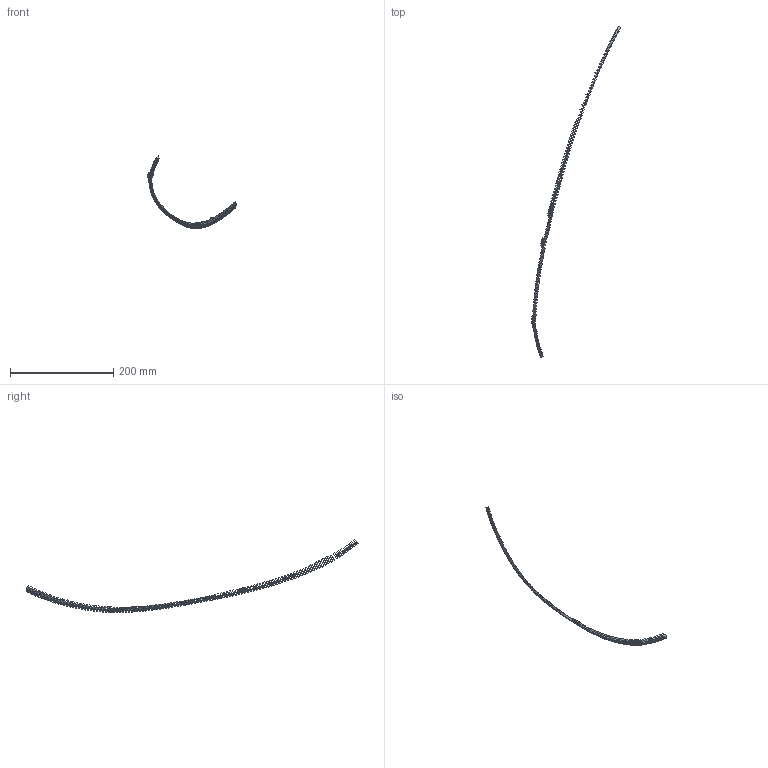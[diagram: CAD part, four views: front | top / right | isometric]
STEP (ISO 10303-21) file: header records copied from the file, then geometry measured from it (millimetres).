
FILE_DESCRIPTION(('FreeCAD Model'),'2;1');
FILE_NAME('Open CASCADE Shape Model','2022-05-22T07:50:31',('FreeCAD'),( 'FreeCAD'),'Open CASCADE STEP processor 7.5','FreeCAD','Unknown');
FILE_SCHEMA(('AUTOMOTIVE_DESIGN { 1 0 10303 214 1 1 1 1 }'));
Length unit declared in the file: millimetre
Products named in the file (224): Open CASCADE STEP translator 7.5 4; Open CASCADE STEP translator 7.5 4.1; Open CASCADE STEP translator 7.5 4.2; Open CASCADE STEP translator 7.5 4.3; Open CASCADE STEP translator 7.5 4.4; Open CASCADE STEP translator 7.5 4.5; Open CASCADE STEP translator 7.5 4.6; Open CASCADE STEP translator 7.5 4.7; Open CASCADE STEP translator 7.5 4.8; Open CASCADE STEP translator 7.5 4.9; Open CASCADE STEP translator 7.5 4.10; Open CASCADE STEP translator 7.5 4.11; Open CASCADE STEP translator 7.5 4.12; Open CASCADE STEP translator 7.5 4.13; Open CASCADE STEP translator 7.5 4.14; Open CASCADE STEP translator 7.5 4.15; Open CASCADE STEP translator 7.5 4.16; Open CASCADE STEP translator 7.5 4.17; Open CASCADE STEP translator 7.5 4.18; Open CASCADE STEP translator 7.5 4.19; Open CASCADE STEP translator 7.5 4.20; Open CASCADE STEP translator 7.5 4.21; Open CASCADE STEP translator 7.5 4.22; Open CASCADE STEP translator 7.5 4.23; Open CASCADE STEP translator 7.5 4.24; Open CASCADE STEP translator 7.5 4.25; Open CASCADE STEP translator 7.5 4.26; Open CASCADE STEP translator 7.5 4.27; Open CASCADE STEP translator 7.5 4.28; Open CASCADE STEP translator 7.5 4.29; Open CASCADE STEP translator 7.5 4.30; Open CASCADE STEP translator 7.5 4.31; Open CASCADE STEP translator 7.5 4.32; Open CASCADE STEP translator 7.5 4.33; Open CASCADE STEP translator 7.5 4.34; Open CASCADE STEP translator 7.5 4.35; Open CASCADE STEP translator 7.5 4.36; Open CASCADE STEP translator 7.5 4.37; Open CASCADE STEP translator 7.5 4.38; Open CASCADE STEP translator 7.5 4.39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
Assembly tree (223 placements, depth 2):
  Open CASCADE STEP translator 7.5 4
    Open CASCADE STEP translator 7.5 4.1
    Open CASCADE STEP translator 7.5 4.2
    Open CASCADE STEP translator 7.5 4.3
    Open CASCADE STEP translator 7.5 4.4
    Open CASCADE STEP translator 7.5 4.5
    Open CASCADE STEP translator 7.5 4.6
    Open CASCADE STEP translator 7.5 4.7
    Open CASCADE STEP translator 7.5 4.8
    Open CASCADE STEP translator 7.5 4.9
    Open CASCADE STEP translator 7.5 4.10
    Open CASCADE STEP translator 7.5 4.11
    Open CASCADE STEP translator 7.5 4.12
    Open CASCADE STEP translator 7.5 4.13
    Open CASCADE STEP translator 7.5 4.14
    Open CASCADE STEP translator 7.5 4.15
    Open CASCADE STEP translator 7.5 4.16
    Open CASCADE STEP translator 7.5 4.17
    Open CASCADE STEP translator 7.5 4.18
    Open CASCADE STEP translator 7.5 4.19
    Open CASCADE STEP translator 7.5 4.20
    Open CASCADE STEP translator 7.5 4.21
    Open CASCADE STEP translator 7.5 4.22
    Open CASCADE STEP translator 7.5 4.23
    Open CASCADE STEP translator 7.5 4.24
    Open CASCADE STEP translator 7.5 4.25
    Open CASCADE STEP translator 7.5 4.26
    Open CASCADE STEP translator 7.5 4.27
    Open CASCADE STEP translator 7.5 4.28
    Open CASCADE STEP translator 7.5 4.29
    Open CASCADE STEP translator 7.5 4.30
    Open CASCADE STEP translator 7.5 4.31
    Open CASCADE STEP translator 7.5 4.32
    Open CASCADE STEP translator 7.5 4.33
    Open CASCADE STEP translator 7.5 4.34
    Open CASCADE STEP translator 7.5 4.35
    Open CASCADE STEP translator 7.5 4.36
    Open CASCADE STEP translator 7.5 4.37
    Open CASCADE STEP translator 7.5 4.38
    Open CASCADE STEP translator 7.5 4.39
    Open CASCADE STEP translator 7.5 4.40
    Open CASCADE STEP translator 7.5 4.41
    Open CASCADE STEP translator 7.5 4.42
    Open CASCADE STEP translator 7.5 4.43
    Open CASCADE STEP translator 7.5 4.44
    Open CASCADE STEP translator 7.5 4.45
    Open CASCADE STEP translator 7.5 4.46
    Open CASCADE STEP translator 7.5 4.47
    Open CASCADE STEP translator 7.5 4.48
    Open CASCADE STEP translator 7.5 4.49
    Open CASCADE STEP translator 7.5 4.50
    Open CASCADE STEP translator 7.5 4.51
    Open CASCADE STEP translator 7.5 4.52
    Open CASCADE STEP translator 7.5 4.53
    Open CASCADE STEP translator 7.5 4.54
    Open CASCADE STEP translator 7.5 4.55
    Open CASCADE STEP translator 7.5 4.56
    Open CASCADE STEP translator 7.5 4.57
    Open CASCADE STEP translator 7.5 4.58
    Open CASCADE STEP translator 7.5 4.59
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Bounding box: 172.07 x 642.4 x 141.48 mm (x, y, z)
Surface area: 7732.2 mm2 (no closed solid volume)
Topology: 0 solids, 223 shells, 223 faces, 9373 edges, 9373 vertices
Faces by surface type: bspline 223
Entity records: 128109 total; most frequent: CARTESIAN_POINT 47981, B_SPLINE_CURVE_WITH_KNOTS 18746, ORIENTED_EDGE 9373, EDGE_CURVE 9373, VERTEX_POINT 9373, SURFACE_CURVE 9373, PCURVE 9373, DEFINITIONAL_REPRESENTATION 9373
